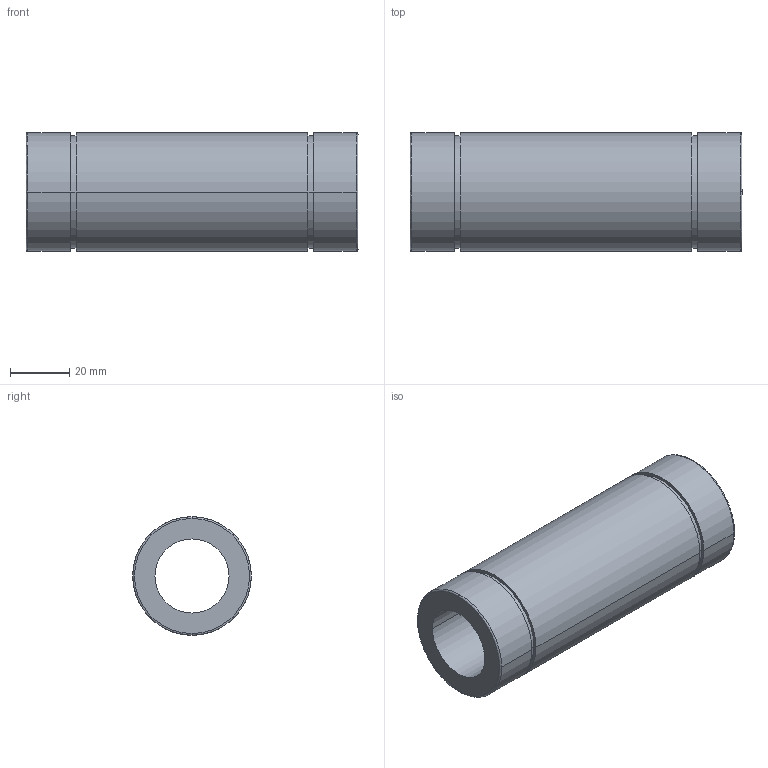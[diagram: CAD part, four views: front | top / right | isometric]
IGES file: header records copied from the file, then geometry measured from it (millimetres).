
Start section: 3D InterOp IGES (Version 21 0 1), Spatial Corp. Copyright (c) 1999-2007.
Global section: file name: NL-25V.igs; native system: Spatial Corp.; preprocessor: 3D InterOp GENERIC/IGES 3.0; author: Noname; organization: Noname; date: 20220311.145642; units: millimetre
Bounding box: 112 x 40 x 40 mm (x, y, z)
Surface area: 24803.5 mm2 (no closed solid volume)
Topology: 0 solids, 0 shells, 22 faces, 100 edges, 100 vertices
Faces by surface type: revolution 16, extrusion 6
